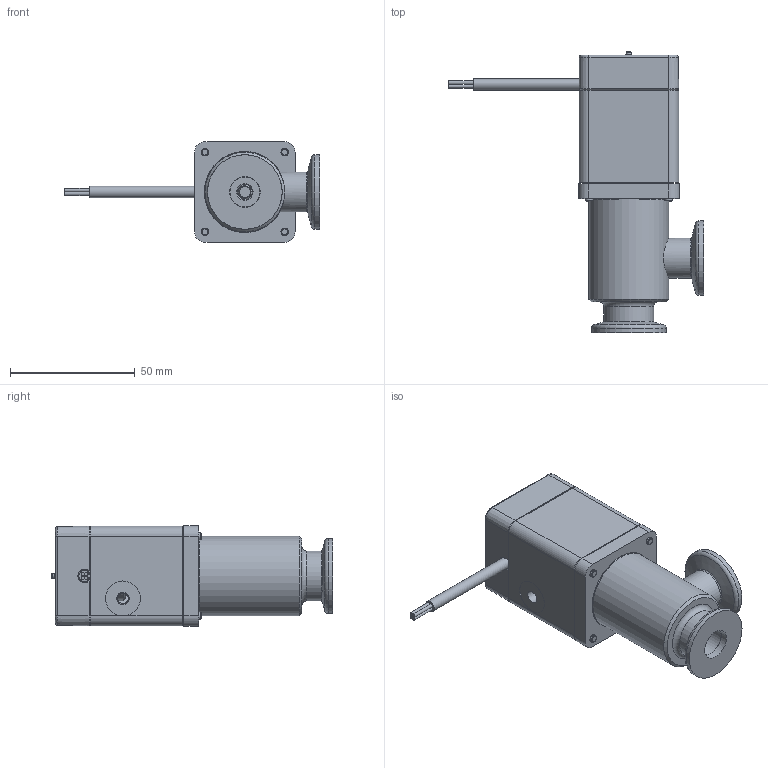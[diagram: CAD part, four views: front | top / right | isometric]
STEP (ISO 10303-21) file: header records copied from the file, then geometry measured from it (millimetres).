
FILE_DESCRIPTION(/* description */ (''),/* implementation_level */ '2;1');
FILE_NAME(/* name */ '1161378516_203.stp',/* time_stamp */ '2013-09-18T07:58:47+02:00',/* author */ (''),/* organization */ (''),/* preprocessor_version */ 'ST-DEVELOPER v11',/* originating_system */ 'SIEMENS PLM Software NX 7.5',/* authorisation */ '');
FILE_SCHEMA (('AP203_CONFIGURATION_CONTROLLED_3D_DESIGN_OF_MECHANICAL_PARTS_AND_ASSEMBLIES_MIM_LF'));
Length unit declared in the file: millimetre
Products named in the file (13): 236208.2; 233364; 239888_6.1; 236204_1.1; 346126.1; 245708.5; 346129.1; 244168.6; 243880.7; 244224.1; 402885_NX-ARRAGMNTLAGEMELDERZEICHNUNG; 346132.2; 709985
Assembly tree (17 placements, depth 3):
  709985
    346132.2
      346129.1
      245708.5
      346126.1
    244224.1  x4
    402885_NX-ARRAGMNTLAGEMELDERZEICHNUNG
      236204_1.1  x2
      239888_6.1
      233364
      236208.2  x2
    243880.7
    244168.6
Bounding box: 102.43 x 113.1 x 40.4 mm (x, y, z)
Volume: 73073.2 mm3; surface area: 51038.1 mm2
Topology: 23 solids, 23 shells, 605 faces, 1457 edges, 950 vertices
Faces by surface type: plane 345, cylinder 152, cone 66, bspline 25, torus 15, sphere 2
Full cylindrical faces by diameter (mm): 1.4 x8, 2 x7, 2.2 x4, 2.3 x1, 2.36 x4, 2.4 x4, 2.5 x3, 3 x19, 3.4 x4, 4 x2, 4.2 x1, 4.6 x1, 4.7 x3, 4.8 x1, 5 x2, 5.5 x4, 5.6 x2, 6 x4, 6.013 x2, 6.5 x4, 8.85 x1, 12 x3, 12.3 x2, 14 x1, 16 x1, 17 x1, 20 x2, 28 x1, 29.896 x1, 29.92 x1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
Entity records: 16355 total; most frequent: CARTESIAN_POINT 3334, DIRECTION 2341, ORIENTED_EDGE 2102, EDGE_CURVE 1051, AXIS2_PLACEMENT_3D 863, VERTEX_POINT 772, EDGE_LOOP 736, LINE 615
